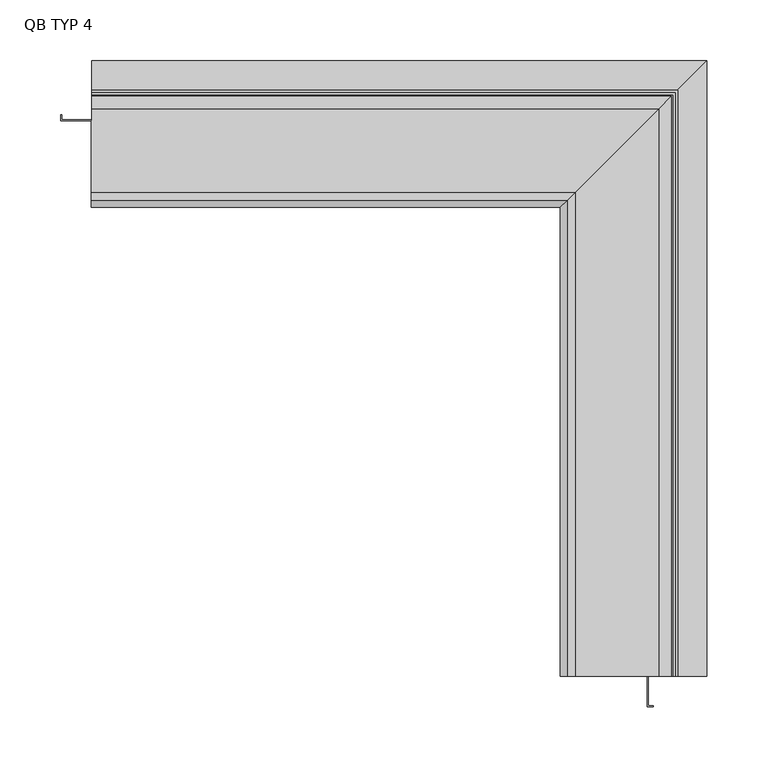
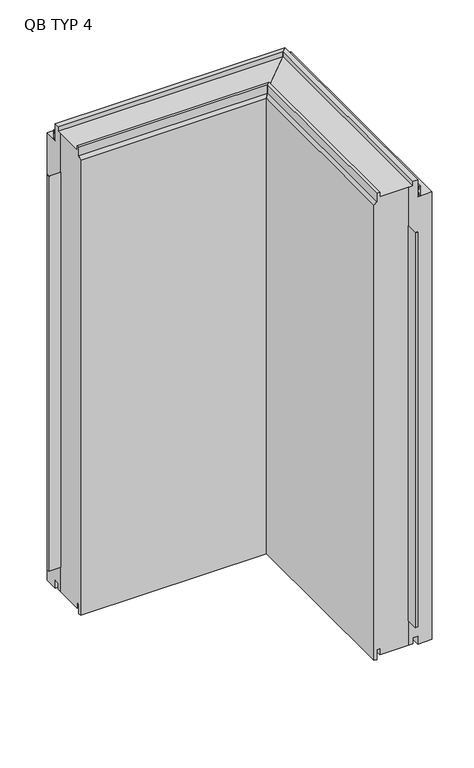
"""IFC4 building model written with IfcOpenShell, lengths in millimetres: plate geometry, TR_C_H_QBISS_Corner_Tr_A : QB TYP 4."""

import ifcopenshell
import ifcopenshell.guid

model = None  # the IFC model being written
_history = None  # IfcOwnerHistory: only IFC2X3 demands one
_inside = {}  # id of a spatial element -> (the spatial element, [elements in it])
_under = {}  # id of a project, library or spatial element -> (it, [spatial elements below it])
_declared = {}  # id of a project -> (the project, [libraries it declares])
_typed = {}  # id of a type object -> (the type object, [elements of that type])
_made_of = {}  # id of a material, layer set ... -> (it, [elements and type objects made of it])


def new_model(schema):
    """Start an empty IFC model of exactly this schema.

    Asked for "IFC4X3", IfcOpenShell would pick the latest addendum, in which some entities
    have other attributes; the version numbers below select the first issue.
    IFC2X3 requires an IfcOwnerHistory on every rooted entity: one is made here for all.
    """
    global model, _history
    if schema == "IFC4X3":
        model = ifcopenshell.file(schema_version=(4, 3, 0, 0))
    else:
        model = ifcopenshell.file(schema=schema)
    _inside.clear()
    _under.clear()
    _declared.clear()
    _typed.clear()
    _made_of.clear()
    _history = None
    if model.schema == "IFC2X3":
        org = make("IfcOrganization", Name="unknown")
        user = make(
            "IfcPersonAndOrganization",
            ThePerson=make("IfcPerson", FamilyName="unknown"),
            TheOrganization=org,
        )
        app = make(
            "IfcApplication",
            ApplicationDeveloper=org,
            Version="unknown",
            ApplicationFullName="unknown",
            ApplicationIdentifier="unknown",
        )
        _history = make(
            "IfcOwnerHistory",
            OwningUser=user,
            OwningApplication=app,
            ChangeAction="ADDED",
            CreationDate=0,
        )
    return model


def make(cls, **values):
    """One entity of the class cls with the attributes given. An attribute that is None is left unset."""
    return model.create_entity(
        cls, **{name: value for name, value in values.items() if value is not None}
    )


def rooted(cls, **values):
    """An entity with a GlobalId (a new one), such as an element, a storey or a relation."""
    return make(cls, GlobalId=ifcopenshell.guid.new(), OwnerHistory=_history, **values)


def si_unit(unit_type, name, prefix=None):
    """IfcSIUnit, for example si_unit("LENGTHUNIT", "METRE", prefix="MILLI")."""
    return make("IfcSIUnit", UnitType=unit_type, Prefix=prefix, Name=name)


def assignment(units):
    """IfcUnitAssignment: the units of a project."""
    return None if units is None else make("IfcUnitAssignment", Units=units)


def point(xyz):
    """IfcCartesianPoint."""
    return None if xyz is None else make("IfcCartesianPoint", Coordinates=xyz)


def direction(xyz):
    """IfcDirection."""
    return None if xyz is None else make("IfcDirection", DirectionRatios=xyz)


def frame(location, z_axis=None, x_axis=None):
    """IfcAxis2Placement3D, a coordinate frame: its origin and axes. An axis left out is left unset."""
    return make(
        "IfcAxis2Placement3D",
        Location=point(location),
        Axis=direction(z_axis),
        RefDirection=direction(x_axis),
    )


def origin():
    """The frame at (0, 0, 0) with its axes left unset."""
    return frame((0.0, 0.0, 0.0))


def place(relative_to, where):
    """IfcLocalPlacement: puts the frame where relative to a parent placement (None: the world)."""
    return make(
        "IfcLocalPlacement", PlacementRelTo=relative_to, RelativePlacement=where
    )


def context(
    kind, dimensions, precision=None, world=None, true_north=None, identifier=None
):
    """IfcGeometricRepresentationContext, for example the 3D "Model" context."""
    return make(
        "IfcGeometricRepresentationContext",
        ContextIdentifier=identifier,
        ContextType=kind,
        CoordinateSpaceDimension=dimensions,
        Precision=precision,
        WorldCoordinateSystem=world,
        TrueNorth=true_north,
    )


def project(units=None, contexts=None):
    """IfcProject with its units and contexts."""
    return rooted(
        "IfcProject",
        Name="project",
        RepresentationContexts=contexts,
        UnitsInContext=assignment(units),
    )


def spatial(cls, under=None, at=None, **own):
    """A site, building, storey or space (cls), placed at a placement, below another one or the project."""
    s = rooted(cls, ObjectPlacement=at, **own)
    if under is not None:
        _under.setdefault(under.id(), (under, []))[1].append(s)
    return s


def polyline(points):
    """IfcPolyline through the points."""
    return make("IfcPolyline", Points=[point(p) for p in points])


def outline(outer, holes=None, kind="AREA"):
    """IfcArbitraryClosedProfileDef: a profile drawn as a closed curve; with holes, ...WithVoids."""
    if holes is None:
        return make("IfcArbitraryClosedProfileDef", ProfileType=kind, OuterCurve=outer)
    return make(
        "IfcArbitraryProfileDefWithVoids",
        ProfileType=kind,
        OuterCurve=outer,
        InnerCurves=holes,
    )


def extrude(swept, where, along, depth):
    """IfcExtrudedAreaSolid: the profile swept, set in the frame where, extruded along a direction by depth."""
    return make(
        "IfcExtrudedAreaSolid",
        SweptArea=swept,
        Position=where,
        ExtrudedDirection=direction(along),
        Depth=depth,
    )


def faces_of(points, faces, orient=None, outer=None):
    """IfcFace entities. A face is a list of loops; a loop is a list of indices into points, from 0.

    orient and outer hold one flag for each loop. By default every Orientation is true, the
    first loop of a face is its IfcFaceOuterBound and the others are IfcFaceBound.
    """
    made = []
    for i, loops in enumerate(faces):
        bounds = []
        for j, loop in enumerate(loops):
            is_outer = j == 0 if outer is None else outer[i][j]
            bounds.append(
                make(
                    "IfcFaceOuterBound" if is_outer else "IfcFaceBound",
                    Bound=make("IfcPolyLoop", Polygon=[points[k] for k in loop]),
                    Orientation=True if orient is None else orient[i][j],
                )
            )
        made.append(make("IfcFace", Bounds=bounds))
    return made


def faceted_brep(points, faces, orient=None, outer=None, voids=None):
    """IfcFacetedBrep: a solid bounded by flat faces; with voids (closed shells), ...WithVoids."""
    shared = [point(p) for p in points]
    hull = make("IfcClosedShell", CfsFaces=faces_of(shared, faces, orient, outer))
    if voids is None:
        return make("IfcFacetedBrep", Outer=hull)
    return make(
        "IfcFacetedBrepWithVoids",
        Outer=hull,
        Voids=[
            make(cls, CfsFaces=faces_of(shared, fs, o, b)) for cls, fs, o, b in voids
        ],
    )


def shape(context_of_items, identifier, shape_type, items):
    """IfcShapeRepresentation: the items that make up one representation, for example the "Body"."""
    return make(
        "IfcShapeRepresentation",
        ContextOfItems=context_of_items,
        RepresentationIdentifier=identifier,
        RepresentationType=shape_type,
        Items=items,
    )


def source(mapping_origin, context_of_items, identifier, shape_type, items):
    """IfcRepresentationMap: a shape defined once, which mapped items show again and again."""
    return make(
        "IfcRepresentationMap",
        MappingOrigin=mapping_origin,
        MappedRepresentation=shape(context_of_items, identifier, shape_type, items),
    )


def transform(
    local_origin,
    x_axis=None,
    y_axis=None,
    z_axis=None,
    scale=None,
    scale2=None,
    scale3=None,
    uniform=True,
):
    """IfcCartesianTransformationOperator3D, or its non-uniform kind. x_axis, y_axis, z_axis: its Axis1, 2, 3."""
    if uniform:
        return make(
            "IfcCartesianTransformationOperator3D",
            Axis1=direction(x_axis),
            Axis2=direction(y_axis),
            LocalOrigin=point(local_origin),
            Scale=scale,
            Axis3=direction(z_axis),
        )
    return make(
        "IfcCartesianTransformationOperator3DnonUniform",
        Axis1=direction(x_axis),
        Axis2=direction(y_axis),
        LocalOrigin=point(local_origin),
        Scale=scale,
        Axis3=direction(z_axis),
        Scale2=scale2,
        Scale3=scale3,
    )


def mapped(mapping_source, mapping_target):
    """IfcMappedItem: shows the shape of a source again, moved by a transform."""
    return make(
        "IfcMappedItem", MappingSource=mapping_source, MappingTarget=mapping_target
    )


def made_of(thing, what):
    """Note that an element or type object is made of a material, layer set ...; save() writes the relation."""
    if what is not None:
        _made_of.setdefault(what.id(), (what, []))[1].append(thing)
    return thing


def element(
    cls,
    number,
    at=None,
    inside=None,
    cuts=None,
    type_object=None,
    material=None,
    context=None,
    identifier="Body",
    shape_type=None,
    held_by="IfcProductDefinitionShape",
    body=None,
    shapes=None,
    **own,
):
    """One element of the class cls, such as IfcWall. Its Tag is "e" and its number.

    at: its placement. inside: the storey or other place that contains it. cuts: it is an
    opening in that element (IfcRelVoidsElement). A single representation is given by context,
    identifier, shape_type and body (its items); several are given by shapes. held_by: the class
    of the entity that holds the representations. save() writes the other relations.
    """
    e = rooted(cls, Tag="e%d" % number, ObjectPlacement=at, **own)
    if body is not None:
        shapes = [shape(context, identifier, shape_type, body)]
    if shapes is not None:
        e.Representation = make(held_by, Representations=shapes)
    if inside is not None:
        _inside.setdefault(inside.id(), (inside, []))[1].append(e)
    if cuts is not None:
        rooted(
            "IfcRelVoidsElement", RelatingBuildingElement=cuts, RelatedOpeningElement=e
        )
    if type_object is not None:
        _typed.setdefault(type_object.id(), (type_object, []))[1].append(e)
    return made_of(e, material)


def aggregate(whole, parts):
    """IfcRelAggregates: a whole, such as a stair, and the parts it consists of."""
    return rooted("IfcRelAggregates", RelatingObject=whole, RelatedObjects=parts)


def save(model, path):
    """Write the relations noted so far, then the file.

    IfcRelAggregates (storeys below a building ...), IfcRelContainedInSpatialStructure (elements
    in a storey), IfcRelDefinesByType, IfcRelAssociatesMaterial and IfcRelDeclares: one each for
    every whole, place, type object, material and project.
    """
    for whole, parts in _under.values():
        aggregate(whole, parts)
    for where, things in _inside.values():
        rooted(
            "IfcRelContainedInSpatialStructure",
            RelatedElements=things,
            RelatingStructure=where,
        )
    for kind, things in _typed.values():
        rooted("IfcRelDefinesByType", RelatedObjects=things, RelatingType=kind)
    for what, things in _made_of.values():
        rooted("IfcRelAssociatesMaterial", RelatedObjects=things, RelatingMaterial=what)
    for by, libraries in _declared.values():
        rooted("IfcRelDeclares", RelatingContext=by, RelatedDefinitions=libraries)
    model.write(path)


def qb_typ_4_d61ff5ee(model_context):
    return source(origin(), model_context, "Body", "SolidModel", [
        extrude(outline(polyline([(209.5, -529.5), (209.5, -504.3), (210.3261798, -504.3), (210.3261798, -528.7), (214.5, -528.7), (214.5, -529.5), (209.5, -529.5)])), frame((0.0, 0.0, 54.0), z_axis=(0.0, 0.0, 1.0), x_axis=(1.0, 0.0, 0.0)), (0.0, 0.0, 1.0), 862.0),
        faceted_brep([(138.5, -504.5, -8.0), (144.5, -504.5, -8.0), (144.5, -504.5, 13.0), (150.5, -504.5, 13.0), (150.5, -504.5, 0.0), (209.5, -504.5, 0.0), (209.5, -504.5, 1000.0), (150.5, -504.5, 1000.0), (150.5, -504.5, 1010.0), (144.5, -504.5, 1010.0), (144.5, -504.5, 992.0), (138.5, -504.5, 986.0), (138.5, -120.0, -8.0), (144.5, -114.0, -8.0), (144.5, -114.0, 13.0), (150.5, -108.0, 13.0), (150.5, -108.0, 0.0), (219.5, -39.0, 0.0), (219.5, -504.3, 0.0), (209.5, -504.3, 0.0), (219.5, -504.3, 13.0), (219.5, -39.0, 13.0), (229.5, -504.3, 13.0), (229.5, -29.0, 13.0), (229.5, -504.3, -4.0), (229.5, -29.0, -4.0), (258.5, 0.0, -4.0), (258.5, -504.3, -4.0), (258.5, 0.0, 973.0), (258.5, -504.3, 973.0), (229.5, -29.0, 973.0), (229.5, -504.3, 973.0), (229.5, -504.3, 1010.0), (229.5, -29.0, 1010.0), (219.5, -504.3, 1010.0), (219.5, -39.0, 1010.0), (219.5, -504.3, 1000.0), (219.5, -39.0, 1000.0), (209.5, -504.3, 1000.0), (150.5, -108.0, 1000.0), (150.5, -108.0, 1010.0), (144.5, -114.0, 1010.0), (144.5, -114.0, 992.0), (138.5, -120.0, 986.0)], [[[0, 1, 2, 3, 4, 5, 6, 7, 8, 9, 10, 11]], [[1, 0, 12, 13]], [[2, 1, 13, 14]], [[3, 2, 14, 15]], [[4, 3, 15, 16]], [[5, 4, 16, 17, 18, 19]], [[20, 18, 17, 21]], [[22, 20, 21, 23]], [[24, 22, 23, 25]], [[26, 27, 24, 25]], [[27, 26, 28, 29]], [[29, 28, 30, 31]], [[32, 31, 30, 33]], [[34, 32, 33, 35]], [[36, 34, 35, 37]], [[7, 6, 38, 36, 37, 39]], [[8, 7, 39, 40]], [[9, 8, 40, 41]], [[10, 9, 41, 42]], [[11, 10, 42, 43]], [[0, 11, 43, 12]], [[19, 38, 6, 5]], [[38, 19, 18, 20, 22, 24, 27, 29, 31, 32, 34, 36]], [[13, 12, 43, 42, 41, 40, 39, 37, 35, 33, 30, 28, 26, 25, 23, 21, 17, 16, 15, 14]]]),
        extrude(outline(polyline([(-271.0, -49.0), (-271.0, -44.0), (-270.2, -44.0), (-270.2, -48.2), (-245.8, -48.2), (-245.8, -49.0), (-271.0, -49.0)])), frame((0.0, 0.0, 54.0), z_axis=(0.0, 0.0, 1.0), x_axis=(1.0, 0.0, 0.0)), (0.0, 0.0, 1.0), 862.0),
        faceted_brep([(-246.0, -108.0, 0.0), (-246.0, -108.0, 13.0), (-246.0, -114.0, 13.0), (-246.0, -114.0, -8.0), (-246.0, -120.0, -8.0), (-246.0, -120.0, 986.0), (-246.0, -114.0, 992.0), (-246.0, -114.0, 1010.0), (-246.0, -108.0, 1010.0), (-246.0, -108.0, 1000.0), (-246.0, -49.0, 1000.0), (-246.0, -49.0, 0.0), (-245.8, -49.0, 0.0), (-245.8, -39.0, 0.0), (219.5, -39.0, 0.0), (150.5, -108.0, 0.0), (-245.8, -39.0, 13.0), (219.5, -39.0, 13.0), (-245.8, -29.0, 13.0), (229.5, -29.0, 13.0), (-245.8, -29.0, -4.0), (229.5, -29.0, -4.0), (-245.8, 0.0, -4.0), (258.5, 0.0, -4.0), (-245.8, 0.0, 973.0), (258.5, 0.0, 973.0), (-245.8, -29.0, 973.0), (229.5, -29.0, 973.0), (-245.8, -29.0, 1010.0), (229.5, -29.0, 1010.0), (-245.8, -39.0, 1010.0), (219.5, -39.0, 1010.0), (-245.8, -39.0, 1000.0), (219.5, -39.0, 1000.0), (150.5, -108.0, 1000.0), (-245.8, -49.0, 1000.0), (150.5, -108.0, 1010.0), (144.5, -114.0, 1010.0), (144.5, -114.0, 992.0), (138.5, -120.0, 986.0), (138.5, -120.0, -8.0), (144.5, -114.0, -8.0), (144.5, -114.0, 13.0), (150.5, -108.0, 13.0)], [[[0, 1, 2, 3, 4, 5, 6, 7, 8, 9, 10, 11]], [[0, 11, 12, 13, 14, 15]], [[13, 16, 17, 14]], [[16, 18, 19, 17]], [[18, 20, 21, 19]], [[22, 23, 21, 20]], [[23, 22, 24, 25]], [[25, 24, 26, 27]], [[26, 28, 29, 27]], [[28, 30, 31, 29]], [[30, 32, 33, 31]], [[10, 9, 34, 33, 32, 35]], [[9, 8, 36, 34]], [[8, 7, 37, 36]], [[7, 6, 38, 37]], [[6, 5, 39, 38]], [[5, 4, 40, 39]], [[4, 3, 41, 40]], [[3, 2, 42, 41]], [[2, 1, 43, 42]], [[1, 0, 15, 43]], [[35, 12, 11, 10]], [[12, 35, 32, 30, 28, 26, 24, 22, 20, 18, 16, 13]], [[15, 14, 17, 19, 21, 23, 25, 27, 29, 31, 33, 34, 36, 37, 38, 39, 40, 41, 42, 43]]]),
        faceted_brep([(234.5, -504.3, 994.5), (233.0001683, -504.3, 994.5), (233.0001683, -504.3, 987.7023593), (230.5001707, -504.3, 987.7023593), (230.5001707, -504.3, 988.5023593), (229.7001572, -504.3, 988.5023593), (229.7001572, -504.3, 980.5023028), (230.5001707, -504.3, 980.5023028), (230.5001707, -504.3, 981.3023028), (233.0001683, -504.3, 981.3023028), (233.0001683, -504.3, 974.5), (234.5, -504.3, 974.5), (-245.8, -24.0, 994.5), (-245.8, -24.0, 974.5), (-245.8, -25.4998317, 974.5), (-245.8, -25.4998317, 981.3023028), (-245.8, -27.9998293, 981.3023028), (-245.8, -27.9998293, 980.5023028), (-245.8, -28.7998428, 980.5023028), (-245.8, -28.7998428, 988.5023593), (-245.8, -27.9998293, 988.5023593), (-245.8, -27.9998293, 987.7023593), (-245.8, -25.4998317, 987.7023593), (-245.8, -25.4998317, 994.5), (234.5, -24.0, 994.5), (233.0001683, -25.4998317, 994.5), (233.0001683, -25.4998317, 987.7023593), (230.5001707, -27.9998293, 987.7023593), (230.5001707, -27.9998293, 988.5023593), (229.7001572, -28.7998428, 988.5023593), (229.7001572, -28.7998428, 980.5023028), (230.5001707, -27.9998293, 980.5023028), (230.5001707, -27.9998293, 981.3023028), (233.0001683, -25.4998317, 981.3023028), (233.0001683, -25.4998317, 974.5), (234.5, -24.0, 974.5)], [[[0, 1, 2, 3, 4, 5, 6, 7, 8, 9, 10, 11]], [[12, 13, 14, 15, 16, 17, 18, 19, 20, 21, 22, 23]], [[1, 0, 24, 12, 23, 25]], [[2, 1, 25, 26]], [[3, 2, 26, 22, 21, 27]], [[4, 3, 27, 28]], [[5, 4, 28, 20, 19, 29]], [[6, 5, 29, 30]], [[7, 6, 30, 18, 17, 31]], [[8, 7, 31, 32]], [[9, 8, 32, 16, 15, 33]], [[10, 9, 33, 34]], [[11, 10, 34, 14, 13, 35]], [[0, 11, 35, 24]], [[26, 25, 23, 22]], [[28, 27, 21, 20]], [[30, 29, 19, 18]], [[32, 31, 17, 16]], [[34, 33, 15, 14]], [[24, 35, 13, 12]]]),
    ])


if __name__ == "__main__":
    model = new_model("IFC4")
    model_context = context("Model", 3, world=origin())
    ifc_project = project(units=[si_unit("LENGTHUNIT", "METRE", prefix="MILLI")], contexts=[model_context])
    site = spatial("IfcSite", under=ifc_project)
    building = spatial("IfcBuilding", under=site)
    placement = place(None, origin())
    qb_typ_4_shape = qb_typ_4_d61ff5ee(model_context)
    element("IfcPlate", 1, ObjectType="TR_C_H_QBISS_Corner_Tr_A : QB TYP 4", at=placement, inside=building, context=model_context, shape_type="MappedRepresentation", body=[
        mapped(qb_typ_4_shape, transform((0.0, 0.0, 0.0), x_axis=(1.0, 0.0, 0.0), y_axis=(0.0, 1.0, 0.0), z_axis=(0.0, 0.0, 1.0))),
    ])
    save(model, "model.ifc")
